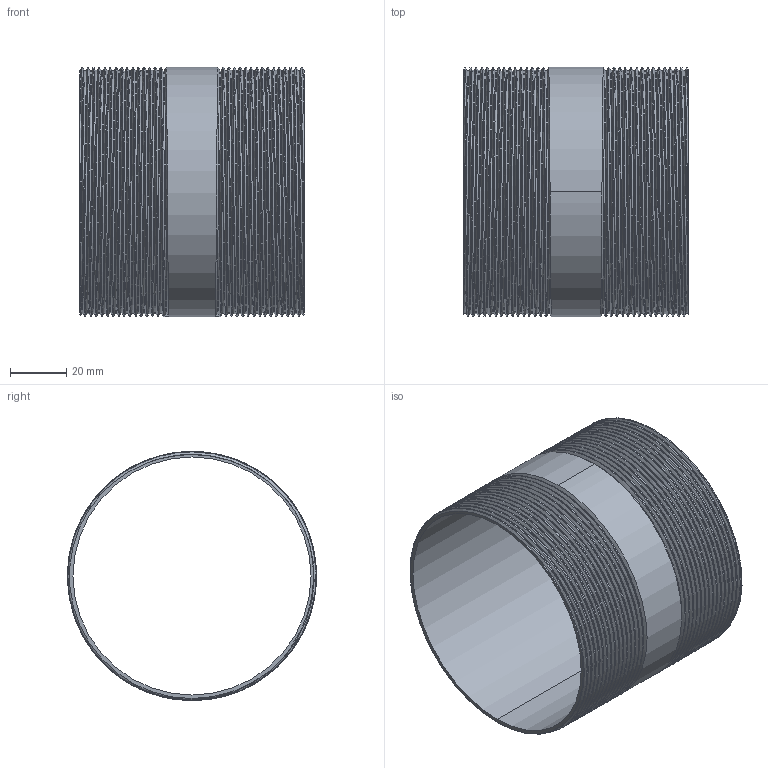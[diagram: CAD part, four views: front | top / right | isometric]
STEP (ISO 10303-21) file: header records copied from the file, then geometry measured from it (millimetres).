
FILE_DESCRIPTION (( 'STEP AP203' ), '1' );
FILE_NAME ('3D_R210_3x80_17148660.STEP', '2024-08-16T10:24:13', ( '' ), ( '' ), 'SwSTEP 2.0', 'SolidWorks 2024', '' );
FILE_SCHEMA (( 'CONFIG_CONTROL_DESIGN' ));
Length unit declared in the file: millimetre
Products named in the file (1): 3D_R210_3x80_17148660
Bounding box: 80 x 88.9 x 88.9 mm (x, y, z)
Volume: 33060.3 mm3; surface area: 53874.6 mm2
Topology: 1 solids, 1 shells, 80 faces, 228 edges, 150 vertices
Faces by surface type: cone 66, bspline 6, cylinder 4, plane 4
Entity records: 16579 total; most frequent: CARTESIAN_POINT 14717, ORIENTED_EDGE 456, DIRECTION 248, EDGE_CURVE 228, VERTEX_POINT 150, B_SPLINE_CURVE_WITH_KNOTS 134, AXIS2_PLACEMENT_3D 87, EDGE_LOOP 82
